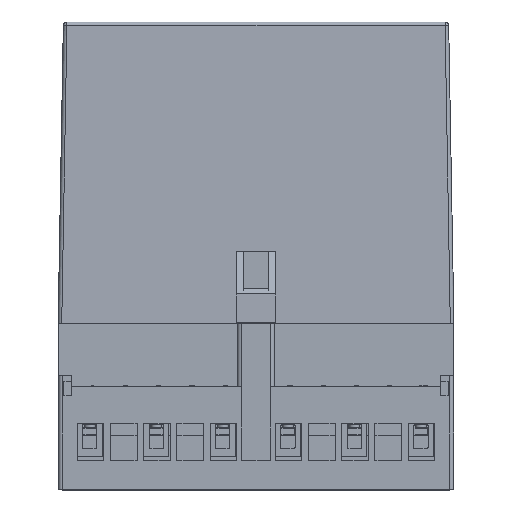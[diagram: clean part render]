
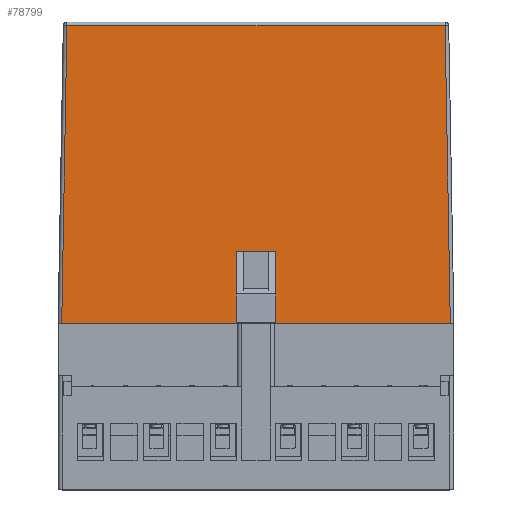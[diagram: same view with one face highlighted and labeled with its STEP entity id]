
A CAD part, top view. The second image highlights one B-rep face of the part: STEP entity #78799.
In plain terms, the highlighted planar face has unit normal (0, 0.018, 1).
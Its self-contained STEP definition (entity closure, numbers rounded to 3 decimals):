
#1475 = VERTEX_POINT ( 'NONE', #128460 ) ;
#4395 = DIRECTION ( 'NONE',  ( 0., 1., -0.017 ) ) ;
#5662 = VERTEX_POINT ( 'NONE', #80248 ) ;
#6257 = ORIENTED_EDGE ( 'NONE', *, *, #124454, .T. ) ;
#9411 = DIRECTION ( 'NONE',  ( -1., 0., 0. ) ) ;
#10125 = CARTESIAN_POINT ( 'NONE',  ( -73.193, 0., 30.457 ) ) ;
#12616 = CARTESIAN_POINT ( 'NONE',  ( -23.943, 19.997, 30.108 ) ) ;
#13946 = DIRECTION ( 'NONE',  ( -1., 0., 0. ) ) ;
#15214 = ORIENTED_EDGE ( 'NONE', *, *, #21645, .T. ) ;
#19233 = VECTOR ( 'NONE', #21790, 1000. ) ;
#20255 = PLANE ( 'NONE',  #24432 ) ;
#21645 = EDGE_CURVE ( 'NONE', #42812, #108828, #156247, .T. ) ;
#21790 = DIRECTION ( 'NONE',  ( 1., 0., 0. ) ) ;
#21978 = CARTESIAN_POINT ( 'NONE',  ( -23.943, 19.997, 30.108 ) ) ;
#23755 = VERTEX_POINT ( 'NONE', #95907 ) ;
#24432 = AXIS2_PLACEMENT_3D ( 'NONE', #44427, #81372, #33183 ) ;
#24512 = VERTEX_POINT ( 'NONE', #150520 ) ;
#25181 = EDGE_CURVE ( 'NONE', #24512, #150292, #44017, .T. ) ;
#28870 = CARTESIAN_POINT ( 'NONE',  ( -71.737, 82.417, 29.018 ) ) ;
#33183 = DIRECTION ( 'NONE',  ( 0., -1., 0.017 ) ) ;
#34338 = DIRECTION ( 'NONE',  ( 1., 0., 0. ) ) ;
#35137 = ORIENTED_EDGE ( 'NONE', *, *, #25181, .T. ) ;
#36526 = VERTEX_POINT ( 'NONE', #63577 ) ;
#36945 = CARTESIAN_POINT ( 'NONE',  ( -72.193, 0., 30.457 ) ) ;
#38147 = DIRECTION ( 'NONE',  ( -0.017, -1., 0.017 ) ) ;
#39635 = EDGE_CURVE ( 'NONE', #36526, #23755, #50359, .T. ) ;
#40521 = VECTOR ( 'NONE', #4395, 1000. ) ;
#42812 = VERTEX_POINT ( 'NONE', #36945 ) ;
#43822 = LINE ( 'NONE', #140850, #137128 ) ;
#44017 = LINE ( 'NONE', #46398, #46774 ) ;
#44427 = CARTESIAN_POINT ( 'NONE',  ( -73.193, 0., 30.457 ) ) ;
#46263 = ORIENTED_EDGE ( 'NONE', *, *, #39635, .F. ) ;
#46398 = CARTESIAN_POINT ( 'NONE',  ( 35.275, 1.893, 30.424 ) ) ;
#46774 = VECTOR ( 'NONE', #58441, 1000. ) ;
#49277 = CARTESIAN_POINT ( 'NONE',  ( 33.869, 82.417, 29.018 ) ) ;
#50359 = LINE ( 'NONE', #90386, #40521 ) ;
#53031 = LINE ( 'NONE', #28870, #134916 ) ;
#53087 = ORIENTED_EDGE ( 'NONE', *, *, #97540, .F. ) ;
#55820 = VECTOR ( 'NONE', #38147, 1000. ) ;
#56334 = EDGE_CURVE ( 'NONE', #5662, #115918, #64625, .T. ) ;
#57390 = EDGE_CURVE ( 'NONE', #150292, #1475, #53031, .T. ) ;
#58441 = DIRECTION ( 'NONE',  ( -0.017, 1., -0.017 ) ) ;
#59299 = LINE ( 'NONE', #12616, #62835 ) ;
#62835 = VECTOR ( 'NONE', #9411, 1000. ) ;
#63577 = CARTESIAN_POINT ( 'NONE',  ( -12.943, 0., 30.457 ) ) ;
#64625 = LINE ( 'NONE', #113550, #157773 ) ;
#65565 = DIRECTION ( 'NONE',  ( 0., -1., 0.017 ) ) ;
#66106 = CARTESIAN_POINT ( 'NONE',  ( -73.193, 0., 30.457 ) ) ;
#72661 = EDGE_LOOP ( 'NONE', ( #128864, #46263, #6257, #35137, #101939, #120557, #15214, #130791, #53087, #85924 ) ) ;
#74739 = DIRECTION ( 'NONE',  ( -1., 0., 0. ) ) ;
#78799 = ADVANCED_FACE ( 'NONE', ( #79004 ), #20255, .T. ) ;
#79004 = FACE_OUTER_BOUND ( 'NONE', #72661, .T. ) ;
#80248 = CARTESIAN_POINT ( 'NONE',  ( -14.943, 19.997, 30.108 ) ) ;
#81372 = DIRECTION ( 'NONE',  ( 0., 0.017, 1. ) ) ;
#84245 = VECTOR ( 'NONE', #34338, 1000. ) ;
#85090 = CARTESIAN_POINT ( 'NONE',  ( -23.943, 0., 30.457 ) ) ;
#85924 = ORIENTED_EDGE ( 'NONE', *, *, #56334, .F. ) ;
#90386 = CARTESIAN_POINT ( 'NONE',  ( -12.943, 0., 30.457 ) ) ;
#95069 = EDGE_CURVE ( 'NONE', #1475, #42812, #147964, .T. ) ;
#95907 = CARTESIAN_POINT ( 'NONE',  ( -12.943, 19.997, 30.108 ) ) ;
#97540 = EDGE_CURVE ( 'NONE', #115918, #150339, #105552, .T. ) ;
#101939 = ORIENTED_EDGE ( 'NONE', *, *, #57390, .T. ) ;
#105552 = LINE ( 'NONE', #21978, #110229 ) ;
#108828 = VERTEX_POINT ( 'NONE', #85090 ) ;
#109547 = CARTESIAN_POINT ( 'NONE',  ( -72.193, -0.017, 30.457 ) ) ;
#110229 = VECTOR ( 'NONE', #129596, 1000. ) ;
#110876 = EDGE_CURVE ( 'NONE', #23755, #5662, #59299, .T. ) ;
#112604 = CARTESIAN_POINT ( 'NONE',  ( -23.943, 19.997, 30.108 ) ) ;
#113550 = CARTESIAN_POINT ( 'NONE',  ( -14.943, 19.997, 30.108 ) ) ;
#115918 = VERTEX_POINT ( 'NONE', #128179 ) ;
#120557 = ORIENTED_EDGE ( 'NONE', *, *, #95069, .T. ) ;
#124454 = EDGE_CURVE ( 'NONE', #36526, #24512, #127067, .T. ) ;
#127067 = LINE ( 'NONE', #66106, #19233 ) ;
#128179 = CARTESIAN_POINT ( 'NONE',  ( -21.943, 19.997, 30.108 ) ) ;
#128460 = CARTESIAN_POINT ( 'NONE',  ( -70.754, 82.417, 29.018 ) ) ;
#128864 = ORIENTED_EDGE ( 'NONE', *, *, #110876, .F. ) ;
#129596 = DIRECTION ( 'NONE',  ( -1., 0., 0. ) ) ;
#130791 = ORIENTED_EDGE ( 'NONE', *, *, #145796, .F. ) ;
#134916 = VECTOR ( 'NONE', #74739, 1000. ) ;
#137128 = VECTOR ( 'NONE', #65565, 1000. ) ;
#140850 = CARTESIAN_POINT ( 'NONE',  ( -23.943, 0., 30.457 ) ) ;
#145796 = EDGE_CURVE ( 'NONE', #150339, #108828, #43822, .T. ) ;
#147964 = LINE ( 'NONE', #109547, #55820 ) ;
#150292 = VERTEX_POINT ( 'NONE', #49277 ) ;
#150339 = VERTEX_POINT ( 'NONE', #112604 ) ;
#150520 = CARTESIAN_POINT ( 'NONE',  ( 35.308, 0., 30.457 ) ) ;
#156247 = LINE ( 'NONE', #10125, #84245 ) ;
#157773 = VECTOR ( 'NONE', #13946, 1000. ) ;
